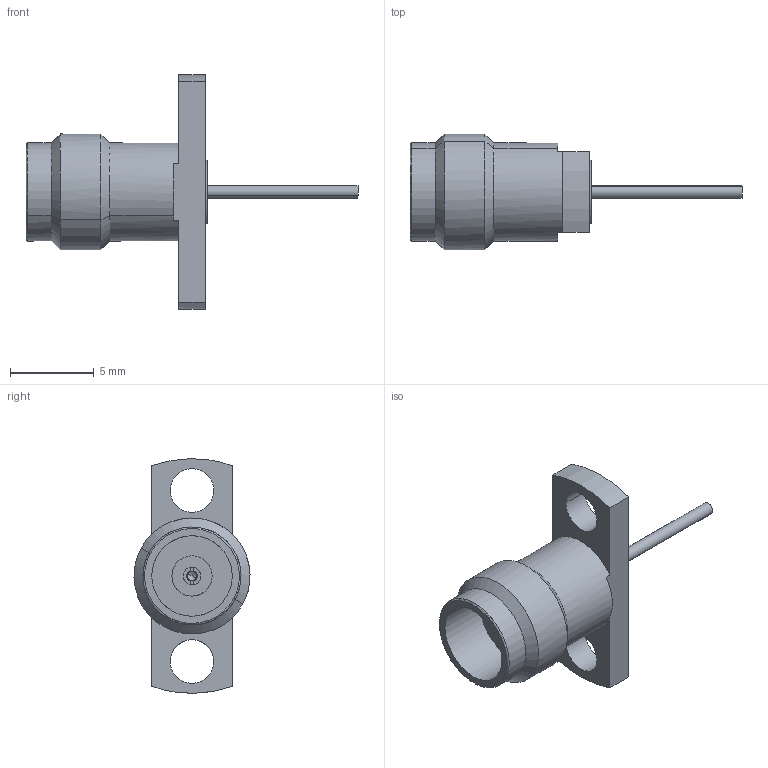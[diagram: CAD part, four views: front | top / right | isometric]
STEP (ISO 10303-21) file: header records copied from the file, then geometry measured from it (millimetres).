
FILE_DESCRIPTION(('CATIA V5 STEP Exchange'),'2;1');
FILE_NAME('F:\Work SZ\CMP 图纸\Precision Coaxial Connector\2.4mm\97-02-9E2-026\97-02-9E2-026A(REV.A).stp','2013-08-09T03:48:45+00:00',('none'),('none'),'CATIA Version 5 Release 17 (IN-10)','CATIA V5 STEP AP203','none');
FILE_SCHEMA(('CONFIG_CONTROL_DESIGN'));
Length unit declared in the file: millimetre
Products named in the file (1): 97-02-9E2-026A
Bounding box: 19.8 x 6.92 x 14 mm (x, y, z)
Volume: 299 mm3; surface area: 504.4 mm2
Topology: 1 solids, 1 shells, 62 faces, 149 edges, 93 vertices
Faces by surface type: cylinder 26, plane 21, cone 13, torus 2
Entity records: 2157 total; most frequent: CARTESIAN_POINT 813, ORIENTED_EDGE 294, DIRECTION 204, EDGE_CURVE 147, VERTEX_POINT 93, AXIS2_PLACEMENT_3D 89, EDGE_LOOP 72, VECTOR 67
